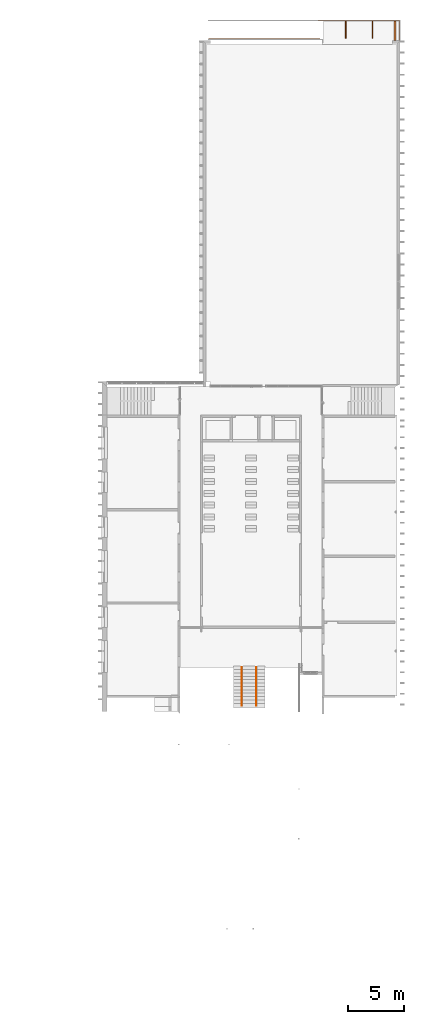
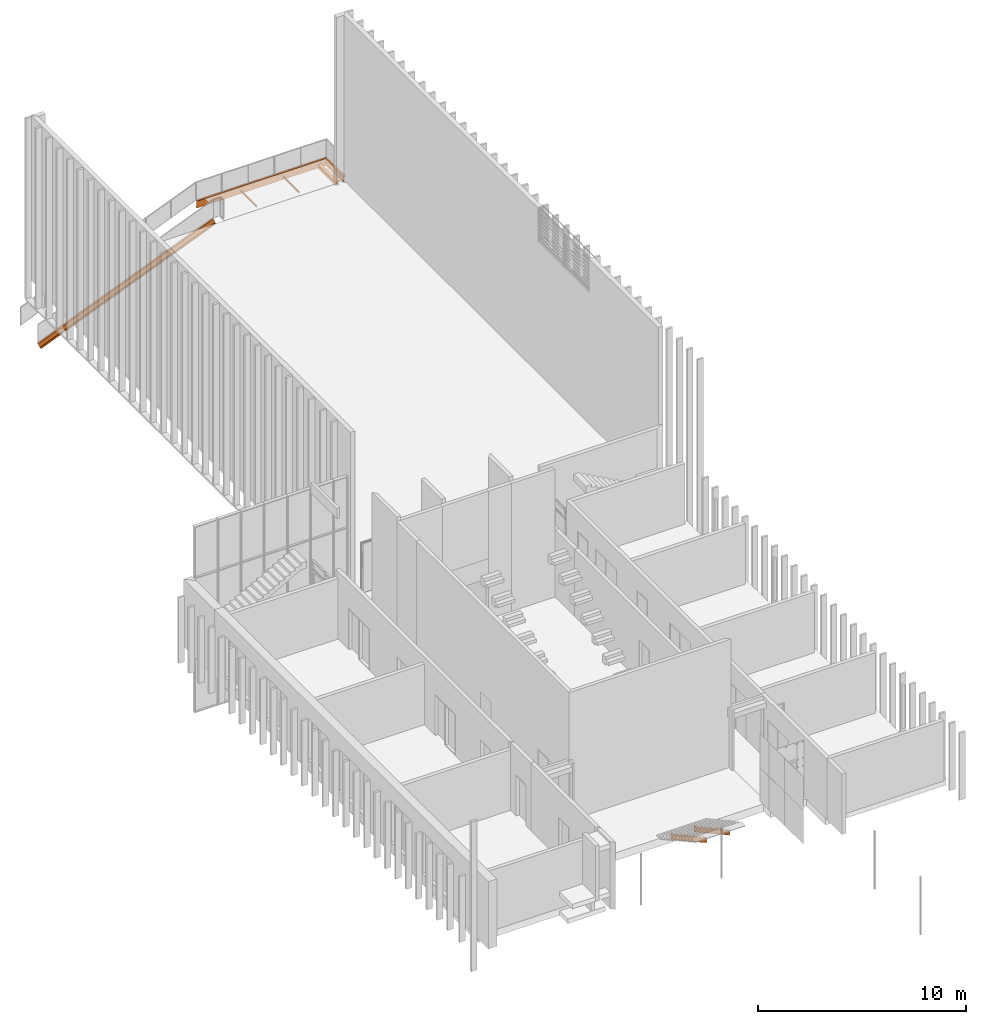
# One storey, part 61 of 62: 8 proxies.
"""IFC2X3 building model written with IfcOpenShell, lengths in millimetres."""

from ifc_helpers import new_model, entity, si_unit, converted_unit, derived_unit, money_unit, point, direction, frame, frame_2d, origin_with_axes, place, context, subcontext, project, spatial, polyline, circle_curve, parameter, trimmed, segment, composite_curve, outline, extrude, clip, halfspace, faceted_brep, source, transform, mapped, material, type_object, element, save


model = new_model("IFC2X3")

# Units and contexts
model_context = context("Model", 3, precision=0.01, world=origin_with_axes(), true_north=direction((0.0, 1.0)))
body_context = subcontext(model_context, "Body", "Model", "MODEL_VIEW")
ifc_project = project(units=[si_unit("LENGTHUNIT", "METRE", prefix="MILLI"), si_unit("AREAUNIT", "SQUARE_METRE"), si_unit("VOLUMEUNIT", "CUBIC_METRE"), converted_unit("PLANEANGLEUNIT", "DEGREE", entity("IfcPlaneAngleMeasure", 0.0174532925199), si_unit("PLANEANGLEUNIT", "RADIAN"), dimensions=[0, 0, 0, 0, 0, 0, 0]), si_unit("SOLIDANGLEUNIT", "STERADIAN"), money_unit("EUR"), converted_unit("TIMEUNIT", "Year", entity("IfcTimeMeasure", 31556926.0), si_unit("TIMEUNIT", "SECOND"), dimensions=[0, 0, 1, 0, 0, 0, 0]), si_unit("MASSUNIT", "GRAM", prefix="KILO"), si_unit("THERMODYNAMICTEMPERATUREUNIT", "DEGREE_CELSIUS"), si_unit("LUMINOUSINTENSITYUNIT", "LUMEN"), si_unit("ENERGYUNIT", "JOULE", prefix="MEGA"), derived_unit("THERMALCONDUCTANCEUNIT", [(si_unit("POWERUNIT", "WATT"), 1), (si_unit("LENGTHUNIT", "METRE"), -1), (si_unit("THERMODYNAMICTEMPERATUREUNIT", "KELVIN"), -1)]), derived_unit("SPECIFICHEATCAPACITYUNIT", [(si_unit("ENERGYUNIT", "JOULE"), 1), (si_unit("MASSUNIT", "GRAM", prefix="KILO"), -1), (si_unit("THERMODYNAMICTEMPERATUREUNIT", "KELVIN"), -1)]), derived_unit("MASSDENSITYUNIT", [(si_unit("MASSUNIT", "GRAM", prefix="KILO"), 1), (si_unit("VOLUMEUNIT", "CUBIC_METRE"), -1)])], contexts=[model_context])

# Site, building, storey
site_placement = place(None, origin_with_axes())
site = spatial("IfcSite", under=ifc_project, at=site_placement, Name="Puškini 31, Narva", CompositionType="ELEMENT")
building_placement = place(site_placement, origin_with_axes())
building = spatial("IfcBuilding", under=site, at=building_placement, Name="Narva Riigigümnaasium", CompositionType="ELEMENT")
storey_placement = place(building_placement, frame((0.0, 0.0, 660.0), z_axis=(0.0, 0.0, 1.0), x_axis=(1.0, 0.0, 0.0)))
storey = spatial("IfcBuildingStorey", under=building, at=storey_placement, Name="2.korrus +0.66", CompositionType="ELEMENT", Elevation=660.0)

# Proxies
ifc_material_1 = material(Name="ET-03_Raud")
building_element_proxy_type_1 = type_object("IfcBuildingElementProxyType", Name="ET-03_Raud", PredefinedType="NOTDEFINED")
shared_shape = source(origin_with_axes(), body_context, "Body", "Brep", [
    faceted_brep([(-2760.24044384, 1872.78920514, 0.0), (-2760.24044384, 1872.78920514, 10.0), (-2677.74045796, 1707.78918274, 10.0), (-2677.74045796, 1707.78918274, 0.0), (-2977.74046894, 1872.78920514, 0.0), (-2977.74046894, 1872.78920514, 10.0), (-3060.24050547, 2037.78922755, 10.0), (-3277.74048021, 2037.78922755, 10.0), (-3360.24051674, 2202.78919929, 10.0), (-3397.60000022, 2202.78919929, 10.0), (-3397.60000022, 1845.85455116, 10.0), (0.846782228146, -23.2911545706, 10.0), (0.846815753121, 387.789206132, 10.0), (-277.7404695, 387.789206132, 10.0), (-360.240455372, 552.789177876, 10.0), (-577.740453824, 552.789177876, 10.0), (-660.24049036, 717.789200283, 10.0), (-877.740463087, 717.789200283, 10.0), (-960.240499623, 882.789172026, 10.0), (-1177.74045571, 882.789172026, 10.0), (-1260.24039092, 1047.78919443, 10.0), (-1477.74046519, 1047.78919443, 10.0), (-1560.2404004, 1212.78921684, 10.0), (-1777.74047707, 1212.78921684, 10.0), (-1860.24041227, 1377.78923925, 10.0), (-2077.7404845, 1377.78923925, 10.0), (-2160.24057174, 1542.78926173, 10.0), (-2377.74047196, 1542.78921105, 10.0), (-2460.2404578, 1707.78918274, 10.0), (-2460.2404578, 1707.78918274, 0.0), (-3060.24050547, 2037.78922755, 0.0), (-2377.74047196, 1542.78921105, 0.0), (-2160.24057174, 1542.78926173, 0.0), (-2077.7404845, 1377.78923925, 0.0), (-1860.24041227, 1377.78923925, 0.0), (-1777.74047707, 1212.78921684, 0.0), (-1560.2404004, 1212.78921684, 0.0), (-1477.74046519, 1047.78919443, 0.0), (-1260.24039092, 1047.78919443, 0.0), (-1177.74045571, 882.789172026, 0.0), (-960.240499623, 882.789172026, 0.0), (-877.740463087, 717.789200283, 0.0), (-660.24049036, 717.789200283, 0.0), (-577.740453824, 552.789177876, 0.0), (-360.240455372, 552.789177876, 0.0), (-277.7404695, 387.789206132, 0.0), (0.846815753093, 387.789206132, 0.0), (0.846782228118, -23.2911545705, 0.0), (-3397.60000022, 1845.85455116, 0.0), (-3397.60000022, 2202.78919929, 0.0), (-3360.24051674, 2202.78919929, 0.0), (-3277.74048021, 2037.78922755, 0.0)], [[[0, 1, 2, 3]], [[0, 4, 5, 1]], [[5, 6, 7, 8, 9, 10, 11, 12, 13, 14, 15, 16, 17, 18, 19, 20, 21, 22, 23, 24, 25, 26, 27, 28, 2, 1]], [[29, 3, 2, 28]], [[30, 4, 0, 3, 29, 31, 32, 33, 34, 35, 36, 37, 38, 39, 40, 41, 42, 43, 44, 45, 46, 47, 48, 49, 50, 51]], [[4, 30, 6, 5]], [[30, 51, 7, 6]], [[51, 50, 8, 7]], [[50, 49, 9, 8]], [[48, 10, 9, 49]], [[10, 48, 47, 11]], [[47, 46, 12, 11]], [[46, 45, 13, 12]], [[45, 44, 14, 13]], [[44, 43, 15, 14]], [[43, 42, 16, 15]], [[42, 41, 17, 16]], [[41, 40, 18, 17]], [[40, 39, 19, 18]], [[39, 38, 20, 19]], [[38, 37, 21, 20]], [[37, 36, 22, 21]], [[36, 35, 23, 22]], [[35, 34, 24, 23]], [[34, 33, 25, 24]], [[33, 32, 26, 25]], [[32, 31, 27, 26]], [[31, 29, 28, 27]]]),
])
for number, where, z_axis, x_axis in (
    (1, (41655.9719162, 198827.624543, -275.261301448), (1.0, 0.0, 0.0), (0.0, 1.0, 0.0)),
    (2, (40373.9760105, 198827.624543, -275.261342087), (1.0, 0.0, 0.0), (0.0, 1.0, 0.0)),
):
    element("IfcBuildingElementProxy", number, at=place(storey_placement, frame(where, z_axis=z_axis, x_axis=x_axis)), inside=storey, type_object=building_element_proxy_type_1, material=ifc_material_1, Name="Trepitala", context=body_context, shape_type="MappedRepresentation", body=[
        mapped(shared_shape, transform((0.0, 0.0, 0.0))),
    ])
ifc_material_2 = material(Name="Teras, S355")
building_element_proxy_type_2 = type_object("IfcBuildingElementProxyType", Name="UPN400 (1) 400 x 110", PredefinedType="NOTDEFINED")
proxy_1_placement = place(storey_placement, frame((47241.6032447, 254708.90824, -185.442266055), z_axis=(0.0, 0.0, 1.0), x_axis=(0.0, 1.0, 0.0)))
element("IfcBuildingElementProxy", 3, at=proxy_1_placement, inside=storey, type_object=building_element_proxy_type_2, material=ifc_material_2, Name="U-Channels:UPN400", context=body_context, shape_type="SweptSolid", body=[
    extrude(outline(composite_curve([segment(polyline([(193.311242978, -48.9082397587), (200.0, -48.9082397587), (200.0, 61.0917602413), (-200.0, 61.0917602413), (-200.0, -48.9082397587), (-193.311242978, -48.9082397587)]), True, "CONTINUOUS"), segment(trimmed(circle_curve(frame_2d((-193.311242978, -39.9082397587), x_axis=(0.0, -1.0)), 9.00000000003), [point((-193.311242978, -48.9082397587)), parameter(0.0)], [point((-184.322471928, -40.3576783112)), parameter(87.1375947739)], True, "CARTESIAN"), True, "CONTINUOUS"), segment(polyline([(-184.322471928, -40.3576783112), (-180.805056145, 29.9906373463)]), True, "CONTINUOUS"), segment(trimmed(circle_curve(frame_2d((-162.827514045, 29.0917602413), x_axis=(0.0, 1.0)), 18.0), [point((-180.805056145, 29.9906373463)), parameter(87.1375947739)], [point((-162.827514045, 47.0917602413)), parameter(0.0)], False, "CARTESIAN"), True, "CONTINUOUS"), segment(polyline([(-162.827514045, 47.0917602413), (162.827514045, 47.0917602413)]), True, "CONTINUOUS"), segment(trimmed(circle_curve(frame_2d((162.827514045, 29.0917602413), x_axis=(0.998752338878, 0.0499376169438)), 18.0), [point((162.827514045, 47.0917602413)), parameter(87.1375947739)], [point((180.805056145, 29.9906373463)), parameter(0.0)], False, "CARTESIAN"), True, "CONTINUOUS"), segment(polyline([(180.805056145, 29.9906373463), (184.322471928, -40.3576783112)]), True, "CONTINUOUS"), segment(trimmed(circle_curve(frame_2d((193.311242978, -39.9082397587), x_axis=(-0.998752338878, -0.0499376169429)), 9.00000000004), [point((184.322471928, -40.3576783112)), parameter(0.0)], [point((193.311242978, -48.9082397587)), parameter(87.1375947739)], True, "CARTESIAN"), True, "CONTINUOUS")], self_intersect=False)), frame((0.0, 9761.6955249, -3943.14809926), z_axis=(0.0, -0.927211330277, 0.374538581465), x_axis=(0.0, -0.374538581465, -0.927211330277)), (0.0, 0.0, 1.0), 10528.015789),
])
building_element_proxy_type_3 = type_object("IfcBuildingElementProxyType", Name="UPN400 400 x 110", PredefinedType="NOTDEFINED")
proxy_2_placement = place(storey_placement, frame((54409.091762, 256361.09176, -200.0), z_axis=(0.0, 0.0, 1.0), x_axis=(0.0, 1.0, 0.0)))
element("IfcBuildingElementProxy", 4, at=proxy_2_placement, inside=storey, type_object=building_element_proxy_type_3, material=ifc_material_2, Name="U-Channels:UPN400", context=body_context, shape_type="SweptSolid", body=[
    extrude(outline(composite_curve([segment(polyline([(-200.0, -61.0917602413), (200.0, -61.0917602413), (200.0, 48.9082397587), (193.311242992, 48.9082397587)]), True, "CONTINUOUS"), segment(trimmed(circle_curve(frame_2d((193.311242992, 39.9082397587), x_axis=(0.0, 1.0)), 9.00000000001), [point((193.311242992, 48.9082397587)), parameter(0.0)], [point((184.322471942, 40.3576783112)), parameter(87.1375947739)], True, "CARTESIAN"), True, "CONTINUOUS"), segment(polyline([(184.322471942, 40.3576783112), (180.805056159, -29.9906373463)]), True, "CONTINUOUS"), segment(trimmed(circle_curve(frame_2d((162.827514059, -29.0917602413), x_axis=(0.0, -1.0)), 18.0), [point((180.805056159, -29.9906373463)), parameter(87.1375947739)], [point((162.827514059, -47.0917602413)), parameter(0.0)], False, "CARTESIAN"), True, "CONTINUOUS"), segment(polyline([(162.827514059, -47.0917602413), (-162.827514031, -47.0917602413)]), True, "CONTINUOUS"), segment(trimmed(circle_curve(frame_2d((-162.827514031, -29.0917602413), x_axis=(-0.998752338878, -0.0499376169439)), 18.0), [point((-162.827514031, -47.0917602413)), parameter(87.1375947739)], [point((-180.805056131, -29.9906373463)), parameter(0.0)], False, "CARTESIAN"), True, "CONTINUOUS"), segment(polyline([(-180.805056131, -29.9906373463), (-184.322471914, 40.3576783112)]), True, "CONTINUOUS"), segment(trimmed(circle_curve(frame_2d((-193.311242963, 39.9082397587), x_axis=(0.998752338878, 0.0499376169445)), 9.00000000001), [point((-184.322471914, 40.3576783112)), parameter(0.0)], [point((-193.311242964, 48.9082397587)), parameter(87.1375947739)], True, "CARTESIAN"), True, "CONTINUOUS"), segment(polyline([(-193.311242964, 48.9082397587), (-200.0, 48.9082397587), (-200.0, -61.0917602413)]), True, "CONTINUOUS")], self_intersect=False)), frame((0.0, 7242.39623352, 0.0), z_axis=(0.0, -1.0, 0.0), x_axis=(0.0, 0.0, -1.0)), (0.0, 0.0, 1.0), 7242.39623352),
])
proxy_3_placement = place(storey_placement, frame((54409.091762, 254566.805854, -200.0), z_axis=(0.0, 0.0, 1.0), x_axis=(1.0, 0.0, 0.0)))
element("IfcBuildingElementProxy", 5, at=proxy_3_placement, inside=storey, type_object=building_element_proxy_type_3, material=ifc_material_2, Name="U-Channels:UPN400", context=body_context, shape_type="Clipping", body=[
    clip(extrude(outline(composite_curve([segment(polyline([(-200.0, -61.0917602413), (200.0, -61.0917602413), (200.0, 48.9082397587), (193.311242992, 48.9082397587)]), True, "CONTINUOUS"), segment(trimmed(circle_curve(frame_2d((193.311242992, 39.9082397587), x_axis=(0.0, 1.0)), 9.00000000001), [point((193.311242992, 48.9082397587)), parameter(0.0)], [point((184.322471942, 40.3576783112)), parameter(87.1375947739)], True, "CARTESIAN"), True, "CONTINUOUS"), segment(polyline([(184.322471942, 40.3576783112), (180.805056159, -29.9906373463)]), True, "CONTINUOUS"), segment(trimmed(circle_curve(frame_2d((162.827514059, -29.0917602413), x_axis=(0.0, -1.0)), 18.0), [point((180.805056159, -29.9906373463)), parameter(87.1375947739)], [point((162.827514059, -47.0917602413)), parameter(0.0)], False, "CARTESIAN"), True, "CONTINUOUS"), segment(polyline([(162.827514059, -47.0917602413), (-162.827514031, -47.0917602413)]), True, "CONTINUOUS"), segment(trimmed(circle_curve(frame_2d((-162.827514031, -29.0917602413), x_axis=(-0.998752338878, -0.0499376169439)), 18.0), [point((-162.827514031, -47.0917602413)), parameter(87.1375947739)], [point((-180.805056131, -29.9906373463)), parameter(0.0)], False, "CARTESIAN"), True, "CONTINUOUS"), segment(polyline([(-180.805056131, -29.9906373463), (-184.322471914, 40.3576783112)]), True, "CONTINUOUS"), segment(trimmed(circle_curve(frame_2d((-193.311242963, 39.9082397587), x_axis=(0.998752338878, 0.0499376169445)), 9.00000000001), [point((-184.322471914, 40.3576783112)), parameter(0.0)], [point((-193.311242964, 48.9082397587)), parameter(87.1375947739)], True, "CARTESIAN"), True, "CONTINUOUS"), segment(polyline([(-193.311242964, 48.9082397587), (-200.0, 48.9082397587), (-200.0, -61.0917602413)]), True, "CONTINUOUS")], self_intersect=False)), frame((0.0, 1794.28590575, 0.0), z_axis=(0.0, -1.0, 0.0), x_axis=(0.0, 0.0, -1.0)), (0.0, 0.0, 1.0), 1794.28590575), halfspace(frame((0.0, 6643.22421739, -1291.05912551), z_axis=(0.0, -0.981634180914, 0.190772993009), x_axis=(0.0, -0.190772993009, -0.981634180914)), True)),
])
building_element_proxy_type_4 = type_object("IfcBuildingElementProxyType", Name="HE200B 200 x 200", PredefinedType="NOTDEFINED")
proxy_4_placement = place(storey_placement, frame((54000.0, 256300.0, -295.0), z_axis=(0.0, 0.0, 1.0), x_axis=(-1.0, 0.0, 0.0)))
element("IfcBuildingElementProxy", 6, at=proxy_4_placement, inside=storey, type_object=building_element_proxy_type_4, material=ifc_material_2, Name="Tala - teras - H-profiil:HE200B", context=body_context, shape_type="SweptSolid", body=[
    extrude(outline(composite_curve([segment(polyline([(100.0, 100.0), (85.0, 100.0), (85.0, 22.5)]), True, "CONTINUOUS"), segment(trimmed(circle_curve(frame_2d((67.0, 22.5), x_axis=(0.0, -1.0)), 18.0), [point((85.0, 22.5)), parameter(90.0)], [point((67.0, 4.5)), parameter(0.0)], False, "CARTESIAN"), True, "CONTINUOUS"), segment(polyline([(67.0, 4.5), (-67.0, 4.5)]), True, "CONTINUOUS"), segment(trimmed(circle_curve(frame_2d((-67.0, 22.5), x_axis=(-1.0, 0.0)), 18.0), [point((-67.0, 4.5)), parameter(90.0)], [point((-85.0, 22.5)), parameter(0.0)], False, "CARTESIAN"), True, "CONTINUOUS"), segment(polyline([(-85.0, 22.5), (-85.0, 100.0), (-100.0, 100.0), (-100.0, -100.0), (-85.0, -100.0), (-85.0, -22.5)]), True, "CONTINUOUS"), segment(trimmed(circle_curve(frame_2d((-67.0, -22.5), x_axis=(0.0, 1.0)), 18.0), [point((-85.0, -22.5)), parameter(90.0)], [point((-67.0, -4.5)), parameter(0.0)], False, "CARTESIAN"), True, "CONTINUOUS"), segment(polyline([(-67.0, -4.5), (67.0, -4.5)]), True, "CONTINUOUS"), segment(trimmed(circle_curve(frame_2d((67.0, -22.5), x_axis=(1.0, 0.0)), 18.0), [point((67.0, -4.5)), parameter(90.0)], [point((85.0, -22.5)), parameter(0.0)], False, "CARTESIAN"), True, "CONTINUOUS"), segment(polyline([(85.0, -22.5), (85.0, -100.0), (100.0, -100.0), (100.0, 100.0)]), True, "CONTINUOUS")], self_intersect=False)), frame((0.0, 1733.19414585, 0.0), z_axis=(0.0, -1.0, 0.0), x_axis=(0.0, 0.0, -1.0)), (0.0, 0.0, 1.0), 1733.19414585),
])
building_element_proxy_type_5 = type_object("IfcBuildingElementProxyType", Name="IPE100 100 x 55", PredefinedType="NOTDEFINED")
for number, where, z_axis, x_axis, name in (
    (7, (49625.0, 256300.0, -245.0), (0.0, 0.0, 1.0), (-1.0, 0.0, 0.0), "IPE-Beams:IPE100"),
    (8, (52000.0, 256300.0, -245.0), (0.0, 0.0, 1.0), (-1.0, 0.0, 0.0), "IPE-Beams:IPE100"),
):
    element("IfcBuildingElementProxy", number, at=place(storey_placement, frame(where, z_axis=z_axis, x_axis=x_axis)), inside=storey, type_object=building_element_proxy_type_5, material=ifc_material_2, Name=name, context=body_context, shape_type="SweptSolid", body=[
        extrude(outline(composite_curve([segment(polyline([(50.0, 27.5), (44.3, 27.5), (44.3, 9.05)]), True, "CONTINUOUS"), segment(trimmed(circle_curve(frame_2d((37.3, 9.05), x_axis=(0.0, -1.0)), 7.0), [point((44.3, 9.05)), parameter(90.0)], [point((37.3, 2.05)), parameter(0.0)], False, "CARTESIAN"), True, "CONTINUOUS"), segment(polyline([(37.3, 2.05), (-37.3, 2.05)]), True, "CONTINUOUS"), segment(trimmed(circle_curve(frame_2d((-37.3, 9.05), x_axis=(-1.0, 0.0)), 7.0), [point((-37.3, 2.05)), parameter(90.0)], [point((-44.3, 9.05)), parameter(0.0)], False, "CARTESIAN"), True, "CONTINUOUS"), segment(polyline([(-44.3, 9.05), (-44.3, 27.5), (-50.0, 27.5), (-50.0, -27.5), (-44.3, -27.5), (-44.3, -9.05)]), True, "CONTINUOUS"), segment(trimmed(circle_curve(frame_2d((-37.3, -9.05), x_axis=(0.0, 1.0)), 7.0), [point((-44.3, -9.05)), parameter(90.0)], [point((-37.3, -2.05)), parameter(0.0)], False, "CARTESIAN"), True, "CONTINUOUS"), segment(polyline([(-37.3, -2.05), (37.3, -2.05)]), True, "CONTINUOUS"), segment(trimmed(circle_curve(frame_2d((37.3, -9.05), x_axis=(1.0, 0.0)), 7.0), [point((37.3, -2.05)), parameter(90.0)], [point((44.3, -9.05)), parameter(0.0)], False, "CARTESIAN"), True, "CONTINUOUS"), segment(polyline([(44.3, -9.05), (44.3, -27.5), (50.0, -27.5), (50.0, 27.5)]), True, "CONTINUOUS")], self_intersect=False)), frame((0.0, 1516.0, 0.0), z_axis=(0.0, -1.0, 0.0), x_axis=(0.0, 0.0, -1.0)), (0.0, 0.0, 1.0), 1516.0),
    ])

save(model, "model.ifc")
